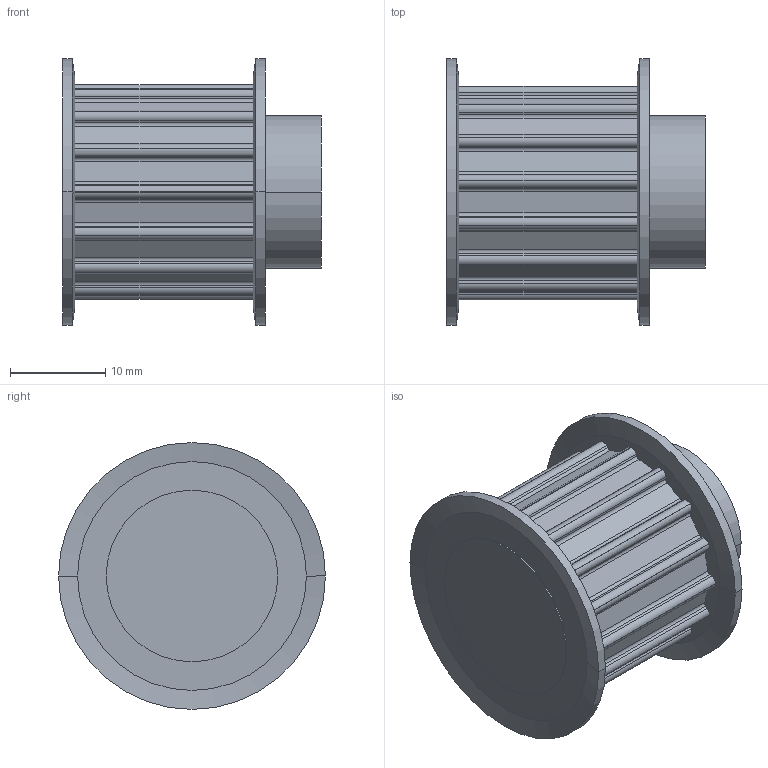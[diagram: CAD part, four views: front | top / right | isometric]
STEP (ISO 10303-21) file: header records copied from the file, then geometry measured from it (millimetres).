
FILE_DESCRIPTION( ( '' ), '1' );
FILE_NAME( 'C:/Users/Stangenbergd/Documents/CAD_Step/1/16631500.stp', '2021-10-19T09:35:59', ( '' ), ( '' ), ' ', ' ', ' ' );
FILE_SCHEMA( ( 'CONFIG_CONTROL_DESIGN' ) );
Length unit declared in the file: millimetre
Products named in the file (1): 1
Bounding box: 27.13 x 28 x 28 mm (x, y, z)
Volume: 9082.1 mm3; surface area: 3807.6 mm2
Topology: 1 solids, 1 shells, 146 faces, 409 edges, 270 vertices
Faces by surface type: cylinder 86, plane 52, cone 8
Entity records: 4813 total; most frequent: DIRECTION 883, CARTESIAN_POINT 826, ORIENTED_EDGE 818, EDGE_CURVE 409, AXIS2_PLACEMENT_3D 327, VERTEX_POINT 270, LINE 229, VECTOR 229
